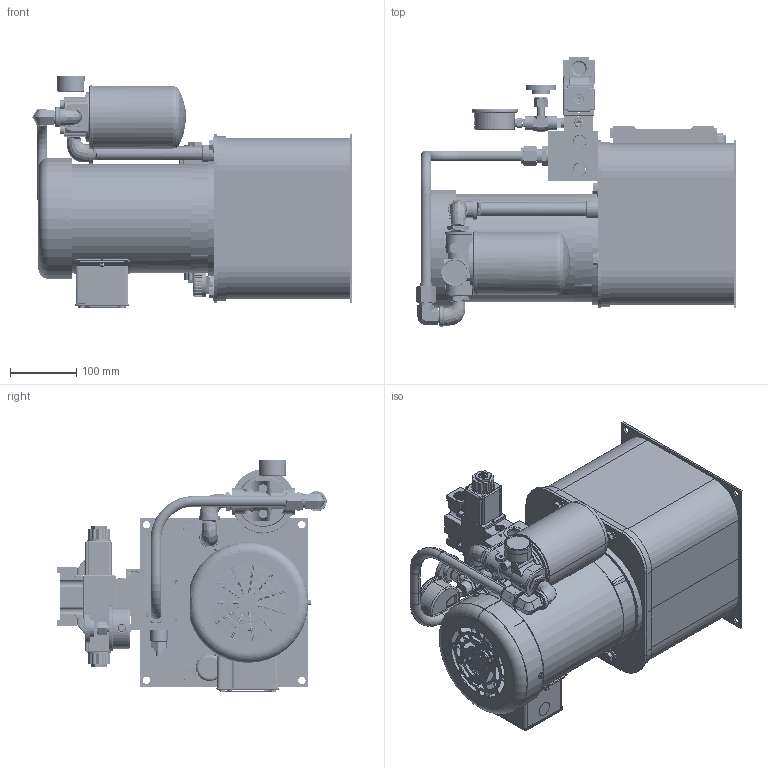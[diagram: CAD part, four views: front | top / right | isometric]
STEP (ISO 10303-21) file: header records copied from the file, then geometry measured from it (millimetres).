
FILE_DESCRIPTION (( 'STEP AP214' ), '1' );
FILE_NAME ('T2V-05-M-P1-F1-047.STEP', '2021-09-09T15:15:07', ( '' ), ( '' ), 'SwSTEP 2.0', 'SolidWorks 2020', '' );
FILE_SCHEMA (( 'AUTOMOTIVE_DESIGN' ));
Length unit declared in the file: inch
Products named in the file (1): T2V-05-M-P1-F1-047
Bounding box: 482.71 x 407.03 x 351.82 mm (x, y, z)
Surface area: 1050598.6 mm2 (no closed solid volume)
Topology: 0 solids, 149 shells, 2173 faces, 9046 edges, 6807 vertices
Faces by surface type: plane 782, cylinder 671, cone 379, bspline 194, torus 116, sphere 31
Entity records: 186492 total; most frequent: CARTESIAN_POINT 88728, DIRECTION 13367, ORIENTED_EDGE 13307, EDGE_CURVE 9019, VERTEX_POINT 6807, AXIS2_PLACEMENT_3D 4596, LINE 4175, VECTOR 4175
